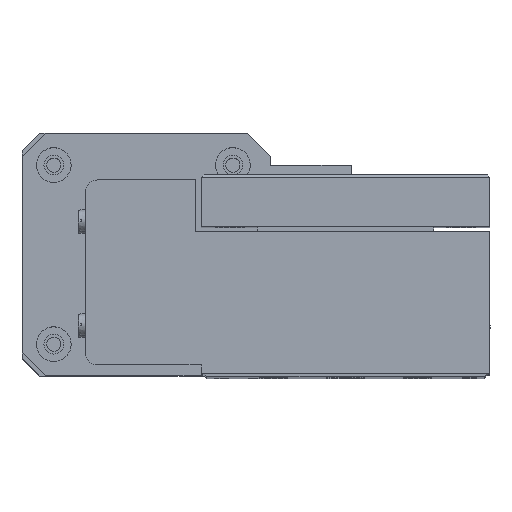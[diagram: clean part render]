
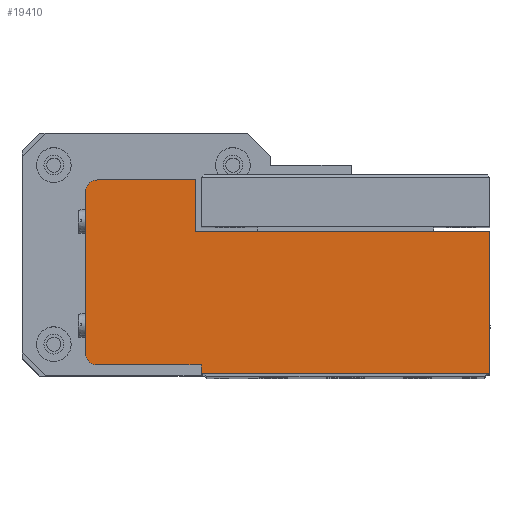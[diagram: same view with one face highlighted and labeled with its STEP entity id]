
A CAD part, top view. The second image highlights one B-rep face of the part: STEP entity #19410.
In plain terms, the highlighted planar face has unit normal (0, 0, 1).
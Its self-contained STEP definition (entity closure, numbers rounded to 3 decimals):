
#15897 = VERTEX_POINT ( 'NONE', #45181 ) ;
#15901 = EDGE_CURVE ( 'NONE', #15931, #15897, #45179, .T. ) ;
#15906 = VERTEX_POINT ( 'NONE', #45165 ) ;
#15928 = VERTEX_POINT ( 'NONE', #45215 ) ;
#15930 = EDGE_CURVE ( 'NONE', #15928, #15931, #45214, .T. ) ;
#15931 = VERTEX_POINT ( 'NONE', #45210 ) ;
#15965 = EDGE_CURVE ( 'NONE', #15897, #15906, #45230, .T. ) ;
#16498 = EDGE_CURVE ( 'NONE', #16499, #15928, #46010, .T. ) ;
#16499 = VERTEX_POINT ( 'NONE', #46067 ) ;
#16530 = EDGE_CURVE ( 'NONE', #15906, #16531, #46080, .T. ) ;
#16531 = VERTEX_POINT ( 'NONE', #46076 ) ;
#19341 = ORIENTED_EDGE ( 'NONE', *, *, #16498, .F. ) ;
#19343 = ORIENTED_EDGE ( 'NONE', *, *, #19347, .F. ) ;
#19347 = EDGE_CURVE ( 'NONE', #19348, #16499, #52882, .T. ) ;
#19348 = VERTEX_POINT ( 'NONE', #52878 ) ;
#19350 = ORIENTED_EDGE ( 'NONE', *, *, #19352, .F. ) ;
#19352 = EDGE_CURVE ( 'NONE', #19353, #19348, #52937, .T. ) ;
#19353 = VERTEX_POINT ( 'NONE', #52933 ) ;
#19376 = EDGE_CURVE ( 'NONE', #16531, #19378, #52955, .T. ) ;
#19378 = VERTEX_POINT ( 'NONE', #52950 ) ;
#19382 = ORIENTED_EDGE ( 'NONE', *, *, #19384, .F. ) ;
#19384 = EDGE_CURVE ( 'NONE', #19385, #19353, #53005, .T. ) ;
#19385 = VERTEX_POINT ( 'NONE', #53001 ) ;
#19388 = ORIENTED_EDGE ( 'NONE', *, *, #19389, .F. ) ;
#19389 = EDGE_CURVE ( 'NONE', #19378, #19385, #52995, .T. ) ;
#19392 = ORIENTED_EDGE ( 'NONE', *, *, #19376, .F. ) ;
#19410 = ADVANCED_FACE ( 'NONE', ( #53016 ), #53010, .F. ) ;
#19412 = EDGE_LOOP ( 'NONE', ( #19414, #19417, #19420, #19421, #19341, #19343, #19350, #19382, #19388, #19392 ) ) ;
#19414 = ORIENTED_EDGE ( 'NONE', *, *, #16530, .F. ) ;
#19417 = ORIENTED_EDGE ( 'NONE', *, *, #15965, .F. ) ;
#19420 = ORIENTED_EDGE ( 'NONE', *, *, #15901, .F. ) ;
#19421 = ORIENTED_EDGE ( 'NONE', *, *, #15930, .F. ) ;
#45165 = CARTESIAN_POINT ( 'NONE',  ( -1., 28.73, 232. ) ) ;
#45175 = DIRECTION ( 'NONE',  ( 0., 1., 0. ) ) ;
#45176 = DIRECTION ( 'NONE',  ( 0., 0., -1. ) ) ;
#45177 = CARTESIAN_POINT ( 'NONE',  ( -18., 26.73, 232. ) ) ;
#45178 = AXIS2_PLACEMENT_3D ( 'NONE', #45177, #45176, #45175 ) ;
#45179 = CIRCLE ( 'NONE', #45178, 2. ) ;
#45181 = CARTESIAN_POINT ( 'NONE',  ( -18., 28.73, 232. ) ) ;
#45210 = CARTESIAN_POINT ( 'NONE',  ( -20., 26.73, 232. ) ) ;
#45211 = DIRECTION ( 'NONE',  ( 0., 1., 0. ) ) ;
#45212 = VECTOR ( 'NONE', #45211, 1000. ) ;
#45213 = CARTESIAN_POINT ( 'NONE',  ( -20., 9.884, 232. ) ) ;
#45214 = LINE ( 'NONE', #45213, #45212 ) ;
#45215 = CARTESIAN_POINT ( 'NONE',  ( -20., -1.27, 232. ) ) ;
#45227 = DIRECTION ( 'NONE',  ( 1., 0., 0. ) ) ;
#45228 = VECTOR ( 'NONE', #45227, 1000. ) ;
#45229 = CARTESIAN_POINT ( 'NONE',  ( 13.207, 28.73, 232. ) ) ;
#45230 = LINE ( 'NONE', #45229, #45228 ) ;
#46010 = CIRCLE ( 'NONE', #46070, 2. ) ;
#46011 = CARTESIAN_POINT ( 'NONE',  ( -18., -1.27, 232. ) ) ;
#46067 = CARTESIAN_POINT ( 'NONE',  ( -18., -3.27, 232. ) ) ;
#46068 = DIRECTION ( 'NONE',  ( 0., 1., 0. ) ) ;
#46069 = DIRECTION ( 'NONE',  ( 0., 0., -1. ) ) ;
#46070 = AXIS2_PLACEMENT_3D ( 'NONE', #46011, #46069, #46068 ) ;
#46076 = CARTESIAN_POINT ( 'NONE',  ( -1., 19.73, 232. ) ) ;
#46077 = DIRECTION ( 'NONE',  ( 0., -1., 0. ) ) ;
#46078 = VECTOR ( 'NONE', #46077, 1000. ) ;
#46079 = CARTESIAN_POINT ( 'NONE',  ( -1., 9.884, 232. ) ) ;
#46080 = LINE ( 'NONE', #46079, #46078 ) ;
#52878 = CARTESIAN_POINT ( 'NONE',  ( 0., -3.27, 232. ) ) ;
#52879 = DIRECTION ( 'NONE',  ( -1., 0., 0. ) ) ;
#52880 = VECTOR ( 'NONE', #52879, 1000. ) ;
#52881 = CARTESIAN_POINT ( 'NONE',  ( -18., -3.27, 232. ) ) ;
#52882 = LINE ( 'NONE', #52881, #52880 ) ;
#52933 = CARTESIAN_POINT ( 'NONE',  ( 0., -4.77, 232. ) ) ;
#52934 = DIRECTION ( 'NONE',  ( 0., 1., 0. ) ) ;
#52935 = VECTOR ( 'NONE', #52934, 1000. ) ;
#52936 = CARTESIAN_POINT ( 'NONE',  ( 0., 9.884, 232. ) ) ;
#52937 = LINE ( 'NONE', #52936, #52935 ) ;
#52950 = CARTESIAN_POINT ( 'NONE',  ( 50., 19.73, 232. ) ) ;
#52952 = DIRECTION ( 'NONE',  ( 1., 0., 0. ) ) ;
#52953 = VECTOR ( 'NONE', #52952, 1000. ) ;
#52954 = CARTESIAN_POINT ( 'NONE',  ( 13.207, 19.73, 232. ) ) ;
#52955 = LINE ( 'NONE', #52954, #52953 ) ;
#52992 = DIRECTION ( 'NONE',  ( 0., -1., 0. ) ) ;
#52993 = VECTOR ( 'NONE', #52992, 1000. ) ;
#52994 = CARTESIAN_POINT ( 'NONE',  ( 50., -4.77, 232. ) ) ;
#52995 = LINE ( 'NONE', #52994, #52993 ) ;
#53001 = CARTESIAN_POINT ( 'NONE',  ( 50., -4.77, 232. ) ) ;
#53002 = DIRECTION ( 'NONE',  ( -1., 0., 0. ) ) ;
#53003 = VECTOR ( 'NONE', #53002, 1000. ) ;
#53004 = CARTESIAN_POINT ( 'NONE',  ( 0., -4.77, 232. ) ) ;
#53005 = LINE ( 'NONE', #53004, #53003 ) ;
#53006 = DIRECTION ( 'NONE',  ( 0., 1., 0. ) ) ;
#53007 = DIRECTION ( 'NONE',  ( 0., 0., -1. ) ) ;
#53008 = CARTESIAN_POINT ( 'NONE',  ( 13.207, 9.884, 232. ) ) ;
#53009 = AXIS2_PLACEMENT_3D ( 'NONE', #53008, #53007, #53006 ) ;
#53010 = PLANE ( 'NONE',  #53009 ) ;
#53016 = FACE_OUTER_BOUND ( 'NONE', #19412, .T. ) ;
